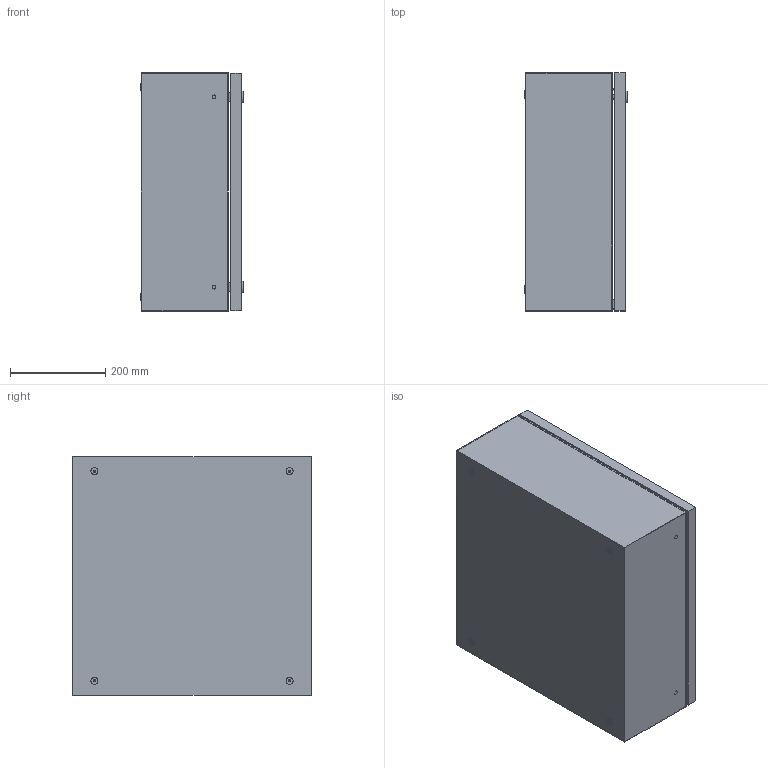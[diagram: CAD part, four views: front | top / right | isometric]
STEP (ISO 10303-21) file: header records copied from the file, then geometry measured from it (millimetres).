
FILE_DESCRIPTION(/* description */ ('Unknown'),/* implementation_level */ '2;1');
FILE_NAME(/* name */ 'CCA05005021',/* time_stamp */ '2024-07-29T11:10:37+02:00',/* author */ ('Unknown'),/* organization */ ('Unknown'),/* preprocessor_version */ 'ST-DEVELOPER v19.4',/* originating_system */ 'Solid Edge',/* authorisation */ 'Unknown');
FILE_SCHEMA (('AUTOMOTIVE_DESIGN {1 0 10303 214 3 1 1}'));
Length unit declared in the file: millimetre
Products named in the file (16): CCA05005021; C000X000.31_oa_0; C000X000.32_oa_1; C0000000.36; C0000000.02; AE00198.02; AE00989.09; AE00417.01; C000X000.30_oa_2; C0000000.18; C0000000.04; C0000000.05; AE00316.01; AE00601.01; AE00891.02; C0000000.01
Assembly tree (35 placements, depth 4):
  CCA05005021
    C000X000.31_oa_0
      C000X000.32_oa_1
        C0000000.36
      C0000000.02  x2
      AE00198.02  x2
      AE00989.09  x2
      AE00417.01  x2
    AE00198.02  x2
    C000X000.30_oa_2
      C0000000.18
      C0000000.04  x4
      C0000000.05  x4
      AE00316.01  x2
      AE00601.01  x2
      AE00891.02  x2
      C0000000.01  x2
      AE00417.01  x4
Bounding box: 215 x 500 x 500 mm (x, y, z)
Volume: 1892472.5 mm3; surface area: 2005584.4 mm2
Topology: 35 solids, 35 shells, 675 faces, 1644 edges, 1070 vertices
Faces by surface type: plane 435, cylinder 166, torus 38, cone 36
Full cylindrical faces by diameter (mm): 4 x2, 4.917 x6, 4.918 x2, 5.4 x2, 6 x14, 6.4 x2, 7.5 x6, 8 x4, 8.376 x8, 10 x6, 10.25 x4, 10.5 x4, 11 x2, 13.6 x2, 14 x4, 15 x4, 16 x4, 16.3 x2, 19.5 x2, 28 x2
Entity records: 11675 total; most frequent: CARTESIAN_POINT 1798, DIRECTION 1730, ORIENTED_EDGE 1588, EDGE_CURVE 794, AXIS2_PLACEMENT_3D 585, LINE 560, VECTOR 560, VERTEX_POINT 544
